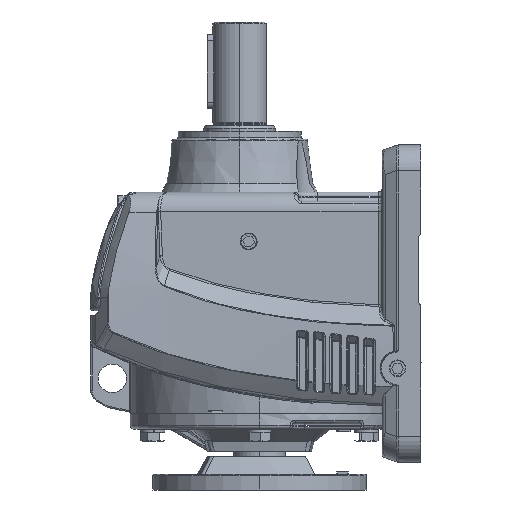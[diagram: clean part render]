
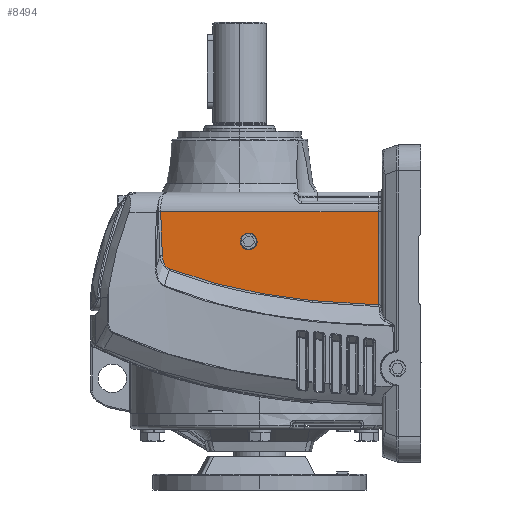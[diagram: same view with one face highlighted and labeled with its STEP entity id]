
A CAD part, left-side view. The second image highlights one B-rep face of the part: STEP entity #8494.
In plain terms, the highlighted planar face has unit normal (-1, 0, 0).
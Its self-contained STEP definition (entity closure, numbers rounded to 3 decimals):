
#471 = B_SPLINE_CURVE_WITH_KNOTS ( 'NONE', 3,
 ( #47635, #47636, #47637, #47638 ),
 .UNSPECIFIED., .F., .F.,
 ( 4, 4 ),
 ( 0., 0.034 ),
 .UNSPECIFIED. ) ;
#6599 = ORIENTED_EDGE ( 'NONE', *, *, #41573, .T. ) ;
#6600 = ORIENTED_EDGE ( 'NONE', *, *, #9015, .T. ) ;
#6601 = ORIENTED_EDGE ( 'NONE', *, *, #39685, .T. ) ;
#6602 = ORIENTED_EDGE ( 'NONE', *, *, #58665, .T. ) ;
#6603 = ORIENTED_EDGE ( 'NONE', *, *, #41581, .T. ) ;
#6604 = ORIENTED_EDGE ( 'NONE', *, *, #57225, .F. ) ;
#6605 = ORIENTED_EDGE ( 'NONE', *, *, #41576, .F. ) ;
#6606 = ORIENTED_EDGE ( 'NONE', *, *, #39681, .T. ) ;
#8494 = ADVANCED_FACE ( 'NONE', ( #17754, #17753 ), #50339, .T. ) ;
#9015 = EDGE_CURVE ( 'NONE', #29177, #29441, #13000, .T. ) ;
#12429 = AXIS2_PLACEMENT_3D ( 'NONE', #50337, #50336, #50335 ) ;
#12668 = B_SPLINE_CURVE_WITH_KNOTS ( 'NONE', 3,
 ( #54795, #54794, #54793, #54792, #54791, #54790, #54789, #54788, #54787, #54786, #54785, #54784, #54783, #54782, #54781, #54780 ),
 .UNSPECIFIED., .F., .F.,
 ( 4, 2, 2, 2, 2, 2, 2, 4 ),
 ( 0., 0.014, 0.028, 0.043, 0.057, 0.071, 0.085, 0.114 ),
 .UNSPECIFIED. ) ;
#12670 = B_SPLINE_CURVE_WITH_KNOTS ( 'NONE', 3,
 ( #54751, #54750, #54749, #54748, #54747, #54746, #54745, #54743, #54742, #54741, #54740, #54739, #54737, #54736, #54735, #54734, #54733, #54732 ),
 .UNSPECIFIED., .F., .F.,
 ( 4, 2, 2, 2, 2, 2, 2, 2, 4 ),
 ( 0., 0.003, 0.005, 0.006, 0.008, 0.009, 0.009, 0.011, 0.012 ),
 .UNSPECIFIED. ) ;
#13000 = B_SPLINE_CURVE_WITH_KNOTS ( 'NONE', 3,
 ( #58802, #58800, #58799, #58798, #58797, #58796, #58795, #58794, #58792, #58791 ),
 .UNSPECIFIED., .F., .F.,
 ( 4, 2, 2, 2, 4 ),
 ( 0., 0.025, 0.038, 0.044, 0.051 ),
 .UNSPECIFIED. ) ;
#17544 = LINE ( 'NONE', #23310, #52284 ) ;
#17545 = LINE ( 'NONE', #23302, #52280 ) ;
#17753 = FACE_OUTER_BOUND ( 'NONE', #52601, .T. ) ;
#17754 = FACE_BOUND ( 'NONE', #52600, .T. ) ;
#20513 = CARTESIAN_POINT ( 'NONE',  ( -100., 198.045, -54.652 ) ) ;
#20542 = CARTESIAN_POINT ( 'NONE',  ( -100., 204.975, -10.5 ) ) ;
#20559 = CARTESIAN_POINT ( 'NONE',  ( -100., 37., -10.5 ) ) ;
#20597 = CARTESIAN_POINT ( 'NONE',  ( -100., 37., -82.481 ) ) ;
#20629 = CARTESIAN_POINT ( 'NONE',  ( -100., 137., -39.744 ) ) ;
#20631 = CARTESIAN_POINT ( 'NONE',  ( -100., 137., -27.256 ) ) ;
#20646 = CARTESIAN_POINT ( 'NONE',  ( -100., 203.682, -44.307 ) ) ;
#20840 = CARTESIAN_POINT ( 'NONE',  ( -100., 87.405, -79.257 ) ) ;
#23302 = CARTESIAN_POINT ( 'NONE',  ( -100., 37., -95.607 ) ) ;
#23303 = DIRECTION ( 'NONE',  ( 0., 0., 1. ) ) ;
#23304 = CARTESIAN_POINT ( 'NONE',  ( -100., 137., -33.5 ) ) ;
#23305 = DIRECTION ( 'NONE',  ( -1., 0., 0. ) ) ;
#23306 = DIRECTION ( 'NONE',  ( 0., 0., 1. ) ) ;
#23310 = CARTESIAN_POINT ( 'NONE',  ( -100., 4.772, -10.5 ) ) ;
#23311 = DIRECTION ( 'NONE',  ( 0., 1., 0. ) ) ;
#24839 = CARTESIAN_POINT ( 'NONE',  ( -100., 137., -33.5 ) ) ;
#24840 = DIRECTION ( 'NONE',  ( -1., 0., 0. ) ) ;
#24841 = DIRECTION ( 'NONE',  ( 0., 0., 1. ) ) ;
#29177 = VERTEX_POINT ( 'NONE', #20840 ) ;
#29376 = VERTEX_POINT ( 'NONE', #20646 ) ;
#29399 = VERTEX_POINT ( 'NONE', #20631 ) ;
#29401 = VERTEX_POINT ( 'NONE', #20629 ) ;
#29441 = VERTEX_POINT ( 'NONE', #20597 ) ;
#29482 = VERTEX_POINT ( 'NONE', #20559 ) ;
#29501 = VERTEX_POINT ( 'NONE', #20542 ) ;
#29538 = VERTEX_POINT ( 'NONE', #20513 ) ;
#39681 = EDGE_CURVE ( 'NONE', #29538, #29177, #12668, .T. ) ;
#39685 = EDGE_CURVE ( 'NONE', #29376, #29538, #12670, .T. ) ;
#41573 = EDGE_CURVE ( 'NONE', #29441, #29482, #17545, .T. ) ;
#41576 = EDGE_CURVE ( 'NONE', #29399, #29401, #52274, .T. ) ;
#41581 = EDGE_CURVE ( 'NONE', #29482, #29501, #17544, .T. ) ;
#47635 = CARTESIAN_POINT ( 'NONE',  ( -100., 204.975, -10.5 ) ) ;
#47636 = CARTESIAN_POINT ( 'NONE',  ( -100., 204.477, -21.766 ) ) ;
#47637 = CARTESIAN_POINT ( 'NONE',  ( -100., 204.04, -33.035 ) ) ;
#47638 = CARTESIAN_POINT ( 'NONE',  ( -100., 203.682, -44.307 ) ) ;
#50335 = DIRECTION ( 'NONE',  ( 0., 0., 1. ) ) ;
#50336 = DIRECTION ( 'NONE',  ( -1., 0., 0. ) ) ;
#50337 = CARTESIAN_POINT ( 'NONE',  ( -100., 4.772, -95.607 ) ) ;
#50339 = PLANE ( 'NONE',  #12429 ) ;
#52274 = CIRCLE ( 'NONE', #52281, 6.244 ) ;
#52280 = VECTOR ( 'NONE', #23303, 1000. ) ;
#52281 = AXIS2_PLACEMENT_3D ( 'NONE', #23304, #23305, #23306 ) ;
#52284 = VECTOR ( 'NONE', #23311, 1000. ) ;
#52335 = CIRCLE ( 'NONE', #52342, 6.244 ) ;
#52342 = AXIS2_PLACEMENT_3D ( 'NONE', #24839, #24840, #24841 ) ;
#52600 = EDGE_LOOP ( 'NONE', ( #6605, #6604 ) ) ;
#52601 = EDGE_LOOP ( 'NONE', ( #6603, #6602, #6601, #6606, #6600, #6599 ) ) ;
#54732 = CARTESIAN_POINT ( 'NONE',  ( -100., 198.045, -54.652 ) ) ;
#54733 = CARTESIAN_POINT ( 'NONE',  ( -100., 198.535, -54.461 ) ) ;
#54734 = CARTESIAN_POINT ( 'NONE',  ( -100., 198.995, -54.215 ) ) ;
#54735 = CARTESIAN_POINT ( 'NONE',  ( -100., 199.86, -53.62 ) ) ;
#54736 = CARTESIAN_POINT ( 'NONE',  ( -100., 200.252, -53.281 ) ) ;
#54737 = CARTESIAN_POINT ( 'NONE',  ( -100., 200.789, -52.719 ) ) ;
#54739 = CARTESIAN_POINT ( 'NONE',  ( -100., 200.959, -52.523 ) ) ;
#54740 = CARTESIAN_POINT ( 'NONE',  ( -100., 201.284, -52.115 ) ) ;
#54741 = CARTESIAN_POINT ( 'NONE',  ( -100., 201.438, -51.903 ) ) ;
#54742 = CARTESIAN_POINT ( 'NONE',  ( -100., 201.871, -51.253 ) ) ;
#54743 = CARTESIAN_POINT ( 'NONE',  ( -100., 202.123, -50.801 ) ) ;
#54745 = CARTESIAN_POINT ( 'NONE',  ( -100., 202.565, -49.863 ) ) ;
#54746 = CARTESIAN_POINT ( 'NONE',  ( -100., 202.756, -49.376 ) ) ;
#54747 = CARTESIAN_POINT ( 'NONE',  ( -100., 203.079, -48.387 ) ) ;
#54748 = CARTESIAN_POINT ( 'NONE',  ( -100., 203.212, -47.887 ) ) ;
#54749 = CARTESIAN_POINT ( 'NONE',  ( -100., 203.533, -46.375 ) ) ;
#54750 = CARTESIAN_POINT ( 'NONE',  ( -100., 203.649, -45.348 ) ) ;
#54751 = CARTESIAN_POINT ( 'NONE',  ( -100., 203.682, -44.307 ) ) ;
#54780 = CARTESIAN_POINT ( 'NONE',  ( -100., 87.405, -79.257 ) ) ;
#54781 = CARTESIAN_POINT ( 'NONE',  ( -100., 96.835, -78.274 ) ) ;
#54782 = CARTESIAN_POINT ( 'NONE',  ( -100., 106.229, -77.07 ) ) ;
#54783 = CARTESIAN_POINT ( 'NONE',  ( -100., 120.258, -74.902 ) ) ;
#54784 = CARTESIAN_POINT ( 'NONE',  ( -100., 124.924, -74.118 ) ) ;
#54785 = CARTESIAN_POINT ( 'NONE',  ( -100., 134.235, -72.42 ) ) ;
#54786 = CARTESIAN_POINT ( 'NONE',  ( -100., 138.88, -71.506 ) ) ;
#54787 = CARTESIAN_POINT ( 'NONE',  ( -100., 148.144, -69.531 ) ) ;
#54788 = CARTESIAN_POINT ( 'NONE',  ( -100., 152.767, -68.471 ) ) ;
#54789 = CARTESIAN_POINT ( 'NONE',  ( -100., 161.971, -66.19 ) ) ;
#54790 = CARTESIAN_POINT ( 'NONE',  ( -100., 166.549, -64.972 ) ) ;
#54791 = CARTESIAN_POINT ( 'NONE',  ( -100., 175.651, -62.358 ) ) ;
#54792 = CARTESIAN_POINT ( 'NONE',  ( -100., 180.175, -60.964 ) ) ;
#54793 = CARTESIAN_POINT ( 'NONE',  ( -100., 189.16, -57.971 ) ) ;
#54794 = CARTESIAN_POINT ( 'NONE',  ( -100., 193.622, -56.374 ) ) ;
#54795 = CARTESIAN_POINT ( 'NONE',  ( -100., 198.045, -54.652 ) ) ;
#57225 = EDGE_CURVE ( 'NONE', #29401, #29399, #52335, .T. ) ;
#58665 = EDGE_CURVE ( 'NONE', #29501, #29376, #471, .T. ) ;
#58791 = CARTESIAN_POINT ( 'NONE',  ( -100., 37., -82.481 ) ) ;
#58792 = CARTESIAN_POINT ( 'NONE',  ( -100., 39.106, -82.435 ) ) ;
#58794 = CARTESIAN_POINT ( 'NONE',  ( -100., 41.211, -82.377 ) ) ;
#58795 = CARTESIAN_POINT ( 'NONE',  ( -100., 45.419, -82.234 ) ) ;
#58796 = CARTESIAN_POINT ( 'NONE',  ( -100., 47.523, -82.148 ) ) ;
#58797 = CARTESIAN_POINT ( 'NONE',  ( -100., 53.831, -81.862 ) ) ;
#58798 = CARTESIAN_POINT ( 'NONE',  ( -100., 58.034, -81.633 ) ) ;
#58799 = CARTESIAN_POINT ( 'NONE',  ( -100., 70.635, -80.826 ) ) ;
#58800 = CARTESIAN_POINT ( 'NONE',  ( -100., 79.026, -80.13 ) ) ;
#58802 = CARTESIAN_POINT ( 'NONE',  ( -100., 87.405, -79.257 ) ) ;
